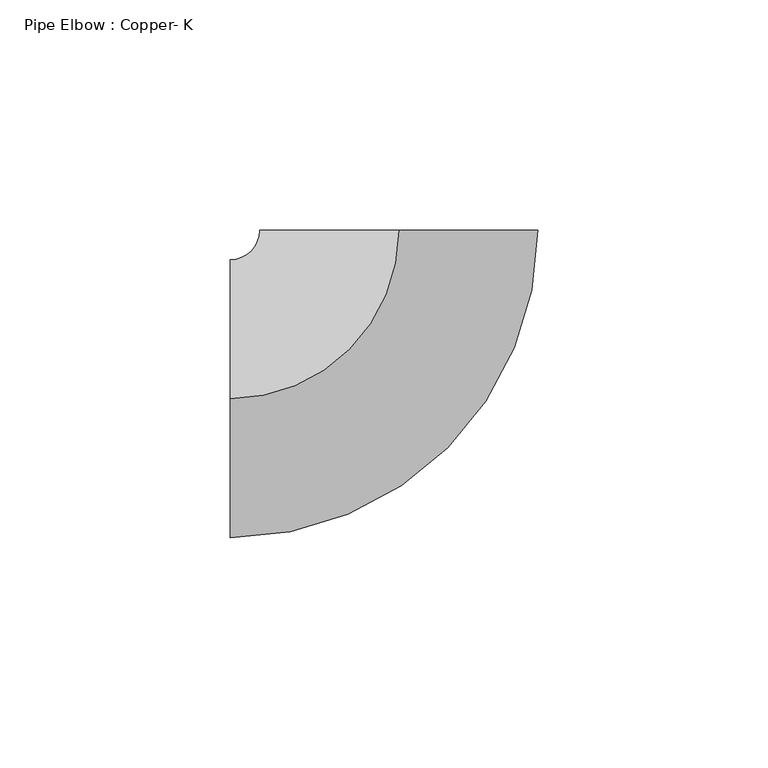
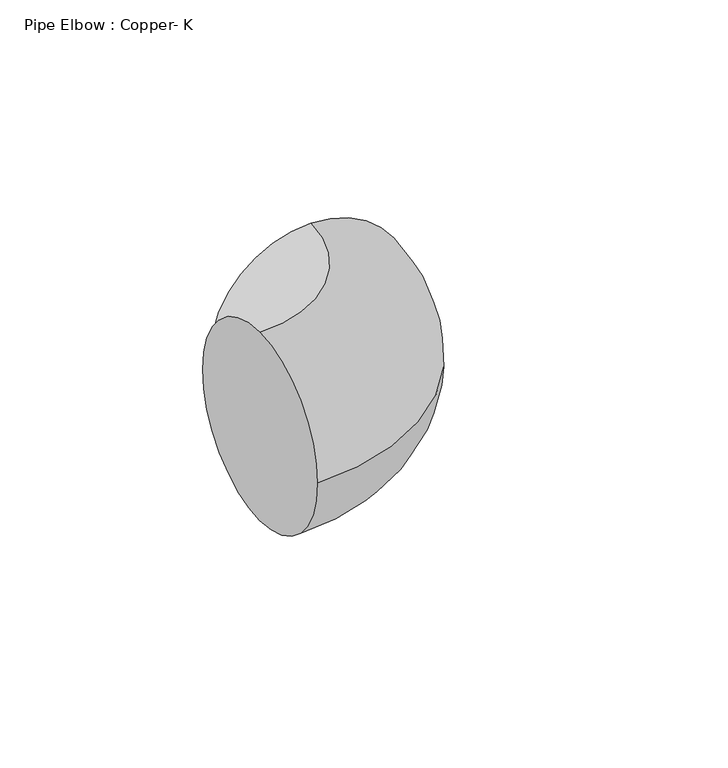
"""IFC4 building model written with IfcOpenShell, lengths in millimetres: pipe fitting geometry, Pipe Elbow : Copper- K."""

from ifc_helpers import new_model, si_unit, point, frame, origin, place, context, project, spatial, circle_curve, ellipse_curve, trimmed, source, transform, mapped, element, save
from ifc_brep_helpers import plane_surface, revolved_surface, advanced_brep


def pipe_elbow_copper_k_764eecca(model_context):
    return source(origin(), model_context, "Body", "AdvancedBrep", [
        advanced_brep(
        [(-36.5125, 0.0, 30.1625), (-36.5125, 30.1625, 0.0), (-36.5125, 0.0, -30.1625), (-36.5125, -30.1625, 0.0), (0.0, 36.5125, 30.1625), (30.1625, 36.5125, 0.0), (0.0, 36.5125, -30.1625), (-30.1625, 36.5125, 0.0)],
        [
            (0, 1, circle_curve(frame((-36.5125, 0.0, 0.0), z_axis=(-1.0, 0.0, 0.0), x_axis=(0.0, 1.0, 0.0)), 30.1625)),
            (1, 2, circle_curve(frame((-36.5125, 0.0, 0.0), z_axis=(-1.0, 0.0, 0.0), x_axis=(0.0, 1.0, 0.0)), 30.1625)),
            (2, 3, circle_curve(frame((-36.5125, 0.0, 0.0), z_axis=(-1.0, 0.0, 0.0), x_axis=(0.0, 1.0, 0.0)), 30.1625)),
            (3, 0, circle_curve(frame((-36.5125, 0.0, 0.0), z_axis=(-1.0, 0.0, 0.0), x_axis=(0.0, 1.0, 0.0)), 30.1625)),
            (4, 5, circle_curve(frame((0.0, 36.5125, 0.0), z_axis=(0.0, 1.0, 0.0), x_axis=(-1.0, 0.0, 0.0)), 30.1625)),
            (5, 6, circle_curve(frame((0.0, 36.5125, 0.0), z_axis=(0.0, 1.0, 0.0), x_axis=(-1.0, 0.0, 0.0)), 30.1625)),
            (6, 7, circle_curve(frame((0.0, 36.5125, 0.0), z_axis=(0.0, 1.0, 0.0), x_axis=(-1.0, 0.0, 0.0)), 30.1625)),
            (7, 4, circle_curve(frame((0.0, 36.5125, 0.0), z_axis=(0.0, 1.0, 0.0), x_axis=(-1.0, 0.0, 0.0)), 30.1625)),
            (7, 1, circle_curve(frame((-36.5125, 36.5125, 0.0), z_axis=(0.0, 0.0, -1.0), x_axis=(0.0, -1.0, 0.0)), 6.35)),
            (0, 4, circle_curve(frame((-36.5125, 36.5125, 30.1625), z_axis=(0.0, 0.0, 1.0), x_axis=(0.0, -1.0, 0.0)), 36.5125)),
            (6, 2, circle_curve(frame((-36.5125, 36.5125, -30.1625), z_axis=(0.0, 0.0, -1.0), x_axis=(0.0, -1.0, 0.0)), 36.5125)),
            (5, 3, circle_curve(frame((-36.5125, 36.5125, 0.0), z_axis=(0.0, 0.0, -1.0), x_axis=(0.0, -1.0, 0.0)), 66.675)),
        ],
        [
            plane_surface(frame((-36.5125, 0.0, 0.0), z_axis=(-1.0, 0.0, 0.0), x_axis=(0.0, 0.0, 1.0))),
            plane_surface(frame((0.0, 36.5125, 0.0), z_axis=(0.0, 1.0, 0.0), x_axis=(0.0, 0.0, 1.0))),
            revolved_surface(trimmed(ellipse_curve(frame((-36.5125, 0.0, 0.0), z_axis=(-1.0, 0.0, 0.0), x_axis=(0.0, 1.0, 0.0)), 30.1625, 30.1625), [point((-36.5125, 0.0, 30.1625))], [point((-36.5125, 30.1625, 0.0))], True, "CARTESIAN"), (-36.5125, 36.5125, 0.0), (0.0, 0.0, 1.0)),
            revolved_surface(trimmed(ellipse_curve(frame((-36.5125, 0.0, 0.0), z_axis=(-1.0, 0.0, 0.0), x_axis=(0.0, 1.0, 0.0)), 30.1625, 30.1625), [point((-36.5125, 30.1625, 0.0))], [point((-36.5125, 0.0, -30.1625))], True, "CARTESIAN"), (-36.5125, 36.5125, 0.0), (0.0, 0.0, 1.0)),
            revolved_surface(trimmed(ellipse_curve(frame((-36.5125, 0.0, 0.0), z_axis=(-1.0, 0.0, 0.0), x_axis=(0.0, 1.0, 0.0)), 30.1625, 30.1625), [point((-36.5125, 0.0, -30.1625))], [point((-36.5125, -30.1625, 0.0))], True, "CARTESIAN"), (-36.5125, 36.5125, 0.0), (0.0, 0.0, 1.0)),
            revolved_surface(trimmed(ellipse_curve(frame((-36.5125, 0.0, 0.0), z_axis=(-1.0, 0.0, 0.0), x_axis=(0.0, 1.0, 0.0)), 30.1625, 30.1625), [point((-36.5125, -30.1625, 0.0))], [point((-36.5125, 0.0, 30.1625))], True, "CARTESIAN"), (-36.5125, 36.5125, 0.0), (0.0, 0.0, 1.0)),
        ],
        [
            (0, [[1, 2, 3, 4]]),
            (1, [[5, 6, 7, 8]]),
            (2, [[9, -1, 10, -8]]),
            (3, [[11, -2, -9, -7]]),
            (4, [[12, -3, -11, -6]]),
            (5, [[-10, -4, -12, -5]]),
        ],
    ),
        advanced_brep(
        [(-36.5125, 0.0, 30.1625), (-36.5125, 30.1625, 0.0), (-36.5125, 0.0, -30.1625), (-36.5125, -30.1625, 0.0), (0.0, 36.5125, 30.1625), (30.1625, 36.5125, 0.0), (0.0, 36.5125, -30.1625), (-30.1625, 36.5125, 0.0)],
        [
            (0, 1, circle_curve(frame((-36.5125, 0.0, 0.0), z_axis=(-1.0, 0.0, 0.0), x_axis=(0.0, 1.0, 0.0)), 30.1625)),
            (1, 2, circle_curve(frame((-36.5125, 0.0, 0.0), z_axis=(-1.0, 0.0, 0.0), x_axis=(0.0, 1.0, 0.0)), 30.1625)),
            (2, 3, circle_curve(frame((-36.5125, 0.0, 0.0), z_axis=(-1.0, 0.0, 0.0), x_axis=(0.0, 1.0, 0.0)), 30.1625)),
            (3, 0, circle_curve(frame((-36.5125, 0.0, 0.0), z_axis=(-1.0, 0.0, 0.0), x_axis=(0.0, 1.0, 0.0)), 30.1625)),
            (4, 5, circle_curve(frame((0.0, 36.5125, 0.0), z_axis=(0.0, 1.0, 0.0), x_axis=(-1.0, 0.0, 0.0)), 30.1625)),
            (5, 6, circle_curve(frame((0.0, 36.5125, 0.0), z_axis=(0.0, 1.0, 0.0), x_axis=(-1.0, 0.0, 0.0)), 30.1625)),
            (6, 7, circle_curve(frame((0.0, 36.5125, 0.0), z_axis=(0.0, 1.0, 0.0), x_axis=(-1.0, 0.0, 0.0)), 30.1625)),
            (7, 4, circle_curve(frame((0.0, 36.5125, 0.0), z_axis=(0.0, 1.0, 0.0), x_axis=(-1.0, 0.0, 0.0)), 30.1625)),
            (7, 1, circle_curve(frame((-36.5125, 36.5125, 0.0), z_axis=(0.0, 0.0, -1.0), x_axis=(0.0, -1.0, 0.0)), 6.35)),
            (0, 4, circle_curve(frame((-36.5125, 36.5125, 30.1625), z_axis=(0.0, 0.0, 1.0), x_axis=(0.0, -1.0, 0.0)), 36.5125)),
            (6, 2, circle_curve(frame((-36.5125, 36.5125, -30.1625), z_axis=(0.0, 0.0, -1.0), x_axis=(0.0, -1.0, 0.0)), 36.5125)),
            (5, 3, circle_curve(frame((-36.5125, 36.5125, 0.0), z_axis=(0.0, 0.0, -1.0), x_axis=(0.0, -1.0, 0.0)), 66.675)),
        ],
        [
            plane_surface(frame((-36.5125, 0.0, 0.0), z_axis=(-1.0, 0.0, 0.0), x_axis=(0.0, 0.0, 1.0))),
            plane_surface(frame((0.0, 36.5125, 0.0), z_axis=(0.0, 1.0, 0.0), x_axis=(0.0, 0.0, 1.0))),
            revolved_surface(trimmed(ellipse_curve(frame((-36.5125, 0.0, 0.0), z_axis=(-1.0, 0.0, 0.0), x_axis=(0.0, 1.0, 0.0)), 30.1625, 30.1625), [point((-36.5125, 0.0, 30.1625))], [point((-36.5125, 30.1625, 0.0))], True, "CARTESIAN"), (-36.5125, 36.5125, 0.0), (0.0, 0.0, 1.0)),
            revolved_surface(trimmed(ellipse_curve(frame((-36.5125, 0.0, 0.0), z_axis=(-1.0, 0.0, 0.0), x_axis=(0.0, 1.0, 0.0)), 30.1625, 30.1625), [point((-36.5125, 30.1625, 0.0))], [point((-36.5125, 0.0, -30.1625))], True, "CARTESIAN"), (-36.5125, 36.5125, 0.0), (0.0, 0.0, 1.0)),
            revolved_surface(trimmed(ellipse_curve(frame((-36.5125, 0.0, 0.0), z_axis=(-1.0, 0.0, 0.0), x_axis=(0.0, 1.0, 0.0)), 30.1625, 30.1625), [point((-36.5125, 0.0, -30.1625))], [point((-36.5125, -30.1625, 0.0))], True, "CARTESIAN"), (-36.5125, 36.5125, 0.0), (0.0, 0.0, 1.0)),
            revolved_surface(trimmed(ellipse_curve(frame((-36.5125, 0.0, 0.0), z_axis=(-1.0, 0.0, 0.0), x_axis=(0.0, 1.0, 0.0)), 30.1625, 30.1625), [point((-36.5125, -30.1625, 0.0))], [point((-36.5125, 0.0, 30.1625))], True, "CARTESIAN"), (-36.5125, 36.5125, 0.0), (0.0, 0.0, 1.0)),
        ],
        [
            (0, [[1, 2, 3, 4]]),
            (1, [[5, 6, 7, 8]]),
            (2, [[9, -1, 10, -8]]),
            (3, [[11, -2, -9, -7]]),
            (4, [[12, -3, -11, -6]]),
            (5, [[-10, -4, -12, -5]]),
        ],
    ),
    ])


if __name__ == "__main__":
    model = new_model("IFC4")
    model_context = context("Model", 3, world=origin())
    ifc_project = project(units=[si_unit("LENGTHUNIT", "METRE", prefix="MILLI")], contexts=[model_context])
    site = spatial("IfcSite", under=ifc_project)
    building = spatial("IfcBuilding", under=site)
    placement = place(None, origin())
    pipe_elbow_copper_k_shape = pipe_elbow_copper_k_764eecca(model_context)
    element("IfcPipeFitting", 1, ObjectType="Pipe Elbow : Copper- K", at=placement, inside=building, context=model_context, shape_type="MappedRepresentation", body=[
        mapped(pipe_elbow_copper_k_shape, transform((0.0, 0.0, 0.0), x_axis=(1.0, 0.0, 0.0), y_axis=(0.0, 1.0, 0.0), z_axis=(0.0, 0.0, 1.0))),
    ])
    save(model, "model.ifc")
